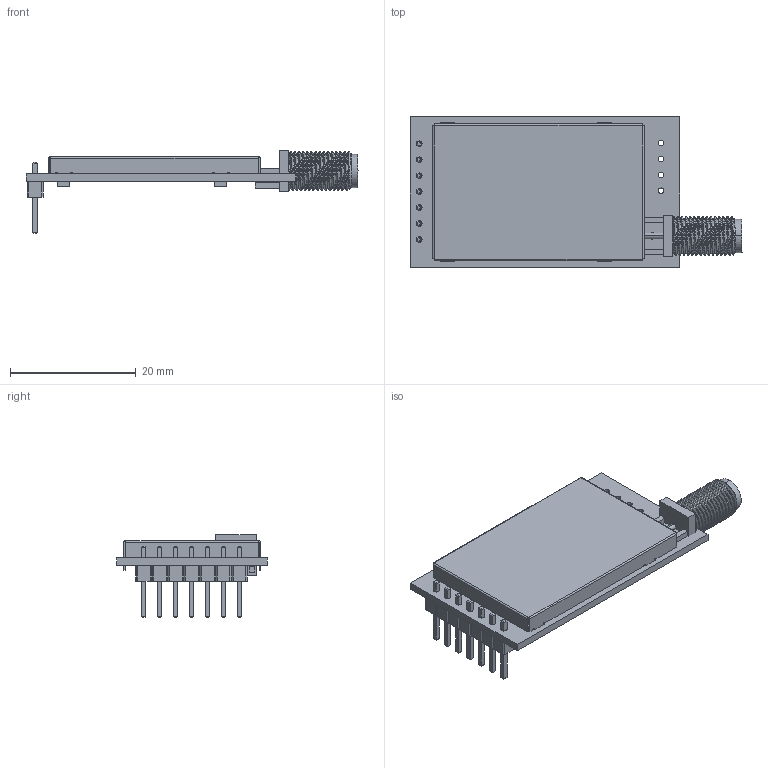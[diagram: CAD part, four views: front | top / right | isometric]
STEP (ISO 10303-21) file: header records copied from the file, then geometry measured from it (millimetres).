
FILE_DESCRIPTION(('Open CASCADE Model'),'2;1');
FILE_NAME('Open CASCADE Shape Model','2023-08-17T14:56:46',('Author'),( 'Open CASCADE'),'Open CASCADE STEP processor 6.8','Open CASCADE 6.8' ,'Unknown');
FILE_SCHEMA(('AUTOMOTIVE_DESIGN { 1 0 10303 214 1 1 1 1 }'));
Length unit declared in the file: millimetre
Products named in the file (113): PCB; Board; Designator6; 毞盄釱4; Designator5; SIP7; Designator10; PBZ-03; L18; User_Library-Chip_InductorINDC1608X95N; R20; R0402; C65; CAPC1005X56N_EIA_0402; C36; C51; CAPC1608X92N_EIA_0603; XT1; User_Library-GeyerElectronics_KX7; C53; C60; C59; C34; C32; C21; LR3; INDC1608X95N_EIA_0603; C62; C9; L17; User_Library-Chip_InductorINDC1005X60N; C25; U6; User_Library-SOT23-5-2; U5; U3; U1; User_Library-SOT23-6-2; R19; R18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
Assembly tree (194 placements, depth 3):
  PCB
    Board
    Designator6
      毞盄釱4
      毞盄釱4
    Designator5
      SIP7
    Designator10
      PBZ-03
    L18
      User_Library-Chip_InductorINDC1608X95N
    R20
      R0402
    C65
      CAPC1005X56N_EIA_0402
    C36
      CAPC1005X56N_EIA_0402
    C51
      CAPC1608X92N_EIA_0603
    PBZ-03
      PBZ-03
    XT1
      User_Library-GeyerElectronics_KX7
    C53
      CAPC1005X56N_EIA_0402
    C60
      CAPC1005X56N_EIA_0402
    C59
      CAPC1608X92N_EIA_0603
    C34
      CAPC1005X56N_EIA_0402
    C32
      CAPC1005X56N_EIA_0402
    C21
      CAPC1005X56N_EIA_0402
    LR3
      INDC1608X95N_EIA_0603
    C62
      CAPC1005X56N_EIA_0402
    C9
      CAPC1608X92N_EIA_0603
    L17
      User_Library-Chip_InductorINDC1005X60N
    C25
      CAPC1005X56N_EIA_0402
    U6
      User_Library-SOT23-5-2
    U5
      User_Library-SOT23-5-2
    U3
      User_Library-SOT23-5-2
    U1
      User_Library-SOT23-6-2
    R19
      R0402
    R18
      R0402
    R17
      R0402
    R16
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Bounding box: 52.88 x 24 x 13.2 mm (x, y, z)
Volume: 2190.5 mm3; surface area: 8214.4 mm2
Topology: 118 solids, 118 shells, 5662 faces, 13252 edges, 7423 vertices
Faces by surface type: plane 2768, cylinder 1676, bspline 627, sphere 576, torus 12, cone 3
Full cylindrical faces by diameter (mm): 0.65 x4, 0.9 x4, 1 x1
Entity records: 165893 total; most frequent: CARTESIAN_POINT 84890, DIRECTION 12586, LINE 8230, VECTOR 8230, ORIENTED_EDGE 7838, PCURVE 7838, DEFINITIONAL_REPRESENTATION 7838, EDGE_CURVE 3919
